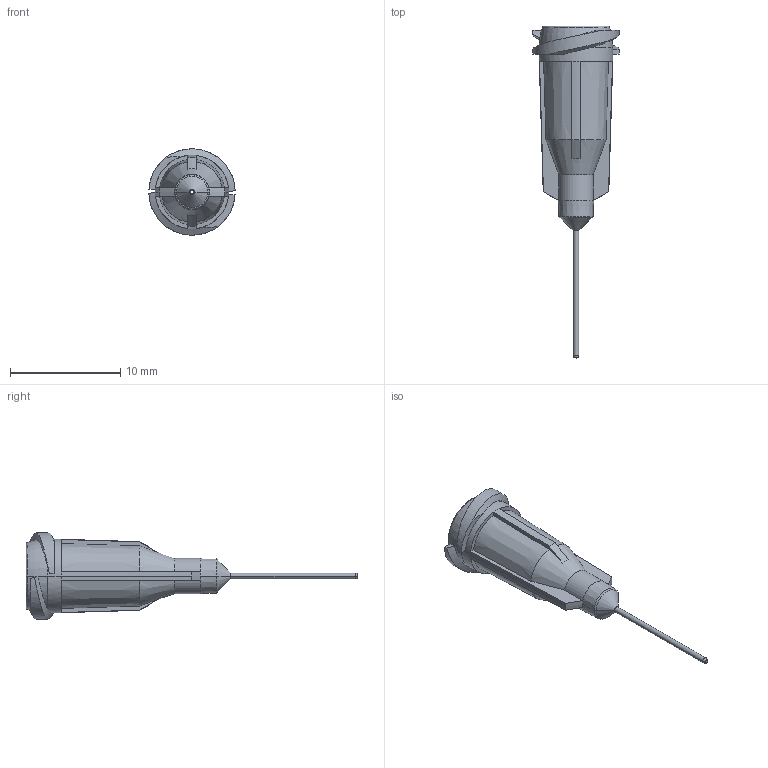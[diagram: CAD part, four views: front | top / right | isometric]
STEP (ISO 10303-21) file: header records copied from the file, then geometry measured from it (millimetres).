
FILE_DESCRIPTION (( 'STEP AP214' ), '1' );
FILE_NAME ('NORDSONEFD-7018351 TIP 25GA GP 010 X 05 CH RD.STEP', '2020-03-27T00:26:59', ( '' ), ( '' ), 'SwSTEP 2.0', 'SolidWorks 2019', '' );
FILE_SCHEMA (( 'AUTOMOTIVE_DESIGN' ));
Length unit declared in the file: inch
Products named in the file (1): NORDSONEFD-7018351 TIP 25GA GP 010 X 05 CH RD
Bounding box: 7.82 x 30.07 x 7.82 mm (x, y, z)
Volume: 266.9 mm3; surface area: 564.4 mm2
Topology: 1 solids, 1 shells, 98 faces, 228 edges, 136 vertices
Faces by surface type: plane 26, cone 24, torus 20, cylinder 16, bspline 12
Entity records: 3318 total; most frequent: CARTESIAN_POINT 997, DIRECTION 458, ORIENTED_EDGE 456, EDGE_CURVE 228, AXIS2_PLACEMENT_3D 199, VERTEX_POINT 136, CIRCLE 112, EDGE_LOOP 104
